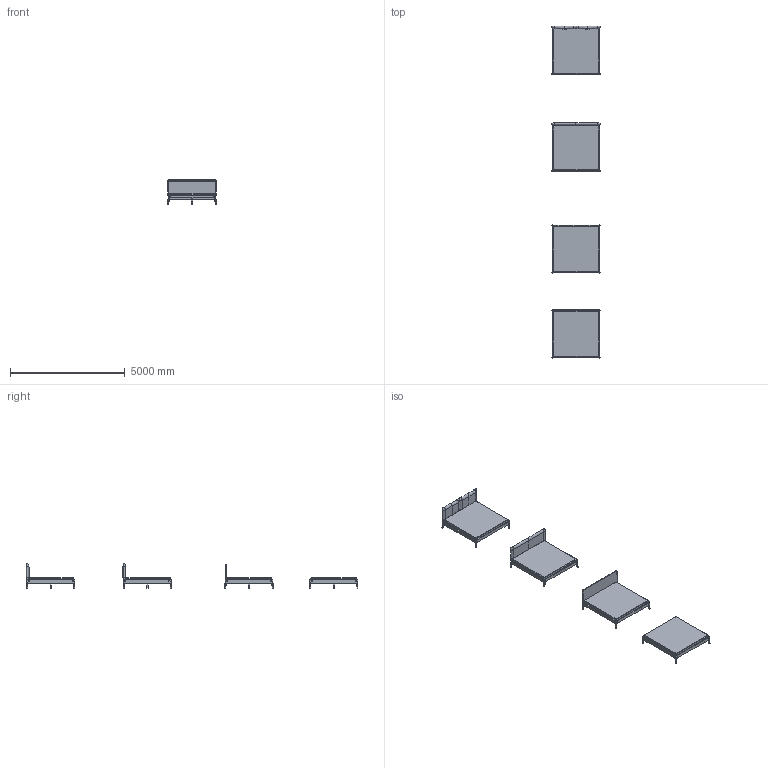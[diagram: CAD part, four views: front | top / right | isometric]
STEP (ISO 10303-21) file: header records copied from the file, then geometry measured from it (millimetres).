
FILE_DESCRIPTION(/* description */ (''),/* implementation_level */ '2;1');
FILE_NAME(/* name */ '200x200',/* time_stamp */ '2025-10-27T19:07:52+01:00',/* author */ (''),/* organization */ (''),/* preprocessor_version */ 'ST-DEVELOPER v16.5',/* originating_system */ 'Rhino 7.38',/* authorisation */ '');
FILE_SCHEMA (('CONFIG_CONTROL_DESIGN'));
Length unit declared in the file: millimetre
Products named in the file (1): Document
Bounding box: 2104.77 x 14475.35 x 1062.16 mm (x, y, z)
Volume: 3783485495.2 mm3; surface area: 62532942.6 mm2
Topology: 50 solids, 50 shells, 826 faces, 1848 edges, 1106 vertices
Faces by surface type: plane 441, bspline 280, cylinder 105
Entity records: 132654 total; most frequent: CARTESIAN_POINT 119910, ORIENTED_EDGE 3640, EDGE_CURVE 1820, B_SPLINE_CURVE_WITH_KNOTS 1604, VERTEX_POINT 1106, EDGE_LOOP 838, ADVANCED_FACE 826, FACE_OUTER_BOUND 826
